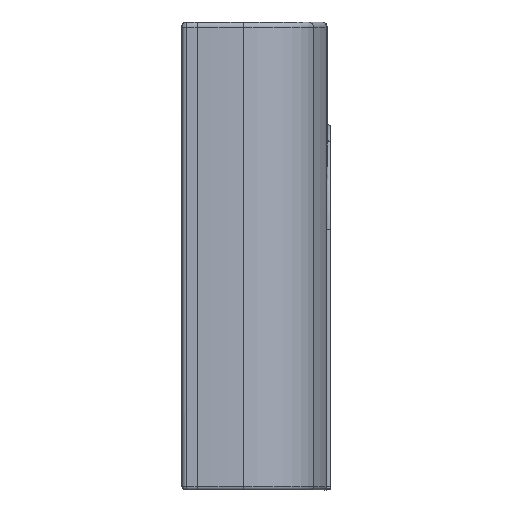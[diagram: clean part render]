
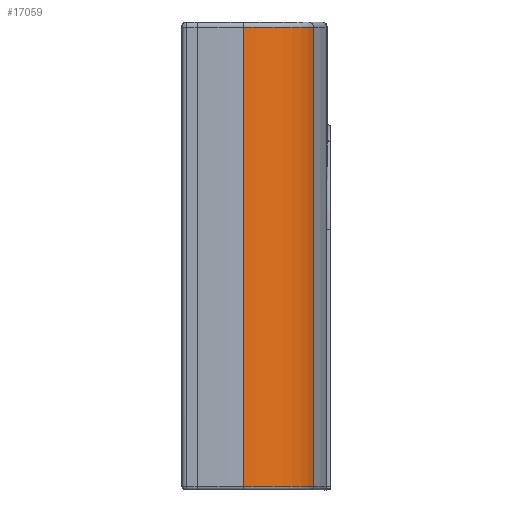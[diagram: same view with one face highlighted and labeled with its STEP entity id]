
A CAD part, left-side view. The second image highlights one B-rep face of the part: STEP entity #17059.
In plain terms, the highlighted cylindrical face has radius 78.733 mm (diameter 157.467 mm), a partial arc.
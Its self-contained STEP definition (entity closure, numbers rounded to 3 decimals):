
#2468 = CARTESIAN_POINT ( 'NONE',  ( -247.385, -59.782, -272. ) ) ;
#2602 = DIRECTION ( 'NONE',  ( 1., 0., 0. ) ) ;
#3972 = AXIS2_PLACEMENT_3D ( 'NONE', #48013, #39204, #23636 ) ;
#4389 = VERTEX_POINT ( 'NONE', #16378 ) ;
#5251 = ORIENTED_EDGE ( 'NONE', *, *, #29597, .T. ) ;
#5997 = EDGE_LOOP ( 'NONE', ( #17967, #5251, #25863, #8579 ) ) ;
#8579 = ORIENTED_EDGE ( 'NONE', *, *, #11807, .T. ) ;
#8987 = LINE ( 'NONE', #48407, #44792 ) ;
#10367 = CARTESIAN_POINT ( 'NONE',  ( -169.062, -51.757, -272. ) ) ;
#10625 = DIRECTION ( 'NONE',  ( 0., 0., 1. ) ) ;
#11072 = CARTESIAN_POINT ( 'NONE',  ( -193.26, -126.679, -272. ) ) ;
#11807 = EDGE_CURVE ( 'NONE', #24985, #26434, #15522, .T. ) ;
#12369 = DIRECTION ( 'NONE',  ( 0., 0., 1. ) ) ;
#15522 = CIRCLE ( 'NONE', #32093, 78.733 ) ;
#16378 = CARTESIAN_POINT ( 'NONE',  ( -193.26, -126.679, 170. ) ) ;
#17059 = ADVANCED_FACE ( 'NONE', ( #43356 ), #43100, .T. ) ;
#17967 = ORIENTED_EDGE ( 'NONE', *, *, #41921, .T. ) ;
#20582 = VERTEX_POINT ( 'NONE', #29160 ) ;
#23166 = LINE ( 'NONE', #39242, #28991 ) ;
#23636 = DIRECTION ( 'NONE',  ( 1., 0., 0. ) ) ;
#24985 = VERTEX_POINT ( 'NONE', #2468 ) ;
#25863 = ORIENTED_EDGE ( 'NONE', *, *, #50515, .F. ) ;
#26434 = VERTEX_POINT ( 'NONE', #11072 ) ;
#28991 = VECTOR ( 'NONE', #35357, 1000. ) ;
#29160 = CARTESIAN_POINT ( 'NONE',  ( -247.385, -59.782, 170. ) ) ;
#29597 = EDGE_CURVE ( 'NONE', #4389, #20582, #47139, .T. ) ;
#32093 = AXIS2_PLACEMENT_3D ( 'NONE', #10367, #10625, #2602 ) ;
#33059 = DIRECTION ( 'NONE',  ( 0., 0., -1. ) ) ;
#35357 = DIRECTION ( 'NONE',  ( 0., 0., 1. ) ) ;
#39204 = DIRECTION ( 'NONE',  ( 0., 0., 1. ) ) ;
#39242 = CARTESIAN_POINT ( 'NONE',  ( -193.26, -126.679, -275. ) ) ;
#41921 = EDGE_CURVE ( 'NONE', #26434, #4389, #23166, .T. ) ;
#43100 = CYLINDRICAL_SURFACE ( 'NONE', #3972, 78.733 ) ;
#43356 = FACE_OUTER_BOUND ( 'NONE', #5997, .T. ) ;
#44792 = VECTOR ( 'NONE', #12369, 1000. ) ;
#45236 = CARTESIAN_POINT ( 'NONE',  ( -169.062, -51.757, 170. ) ) ;
#45749 = DIRECTION ( 'NONE',  ( 1., 0., 0. ) ) ;
#47139 = CIRCLE ( 'NONE', #51286, 78.733 ) ;
#48013 = CARTESIAN_POINT ( 'NONE',  ( -169.062, -51.757, -275. ) ) ;
#48407 = CARTESIAN_POINT ( 'NONE',  ( -247.385, -59.782, -275. ) ) ;
#50515 = EDGE_CURVE ( 'NONE', #24985, #20582, #8987, .T. ) ;
#51286 = AXIS2_PLACEMENT_3D ( 'NONE', #45236, #33059, #45749 ) ;
